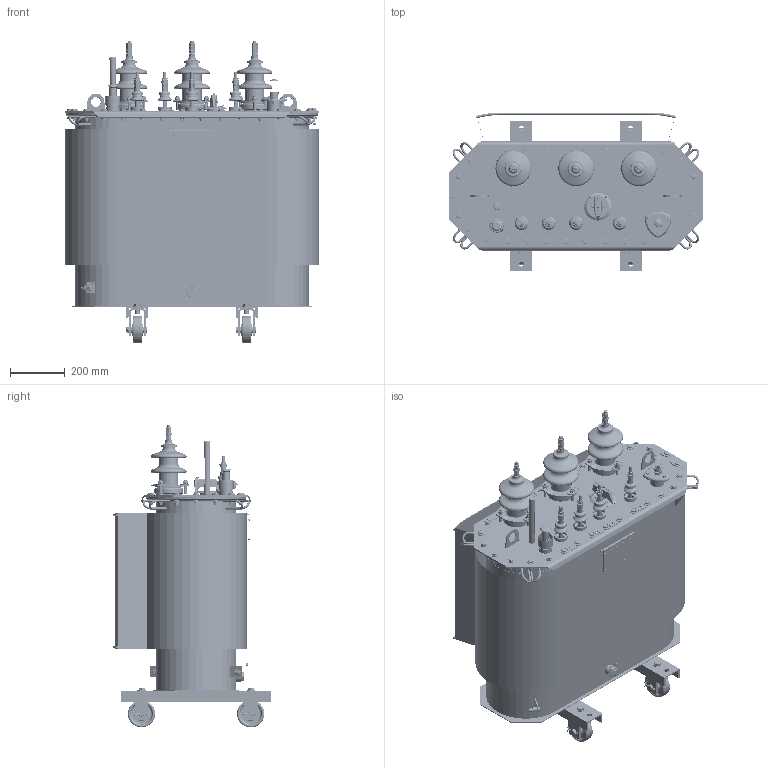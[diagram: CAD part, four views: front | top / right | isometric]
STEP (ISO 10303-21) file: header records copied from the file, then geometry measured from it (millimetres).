
FILE_DESCRIPTION(/* description */ (''),/* implementation_level */ '2;1');
FILE_NAME(/* name */ 'D:\SEARCHWORK\3Д_Модели\ТМГ33-63\Серийный\ТМГ33-63-10-УХЛ1-Х3К2.stp',/* time_stamp */ '2024-11-20T08:49:53+03:00',/* author */ ('53122'),/* organization */ (''),/* preprocessor_version */ 'ST-DEVELOPER v18.1',/* originating_system */ 'Autodesk Inventor 2021',/* authorisation */ '');
FILE_SCHEMA (('AUTOMOTIVE_DESIGN { 1 0 10303 214 3 1 1 }'));
Products named in the file (1): ВИЕЛ.672133.017_Shrinkwrap_1
Bounding box: 934 x 580 x 1109.6 mm (x, y, z)
Volume: 12826117.2 mm3; surface area: 7879923.4 mm2
Topology: 374 solids, 375 shells, 6990 faces, 16599 edges, 10504 vertices
Faces by surface type: plane 3320, cylinder 1466, bspline 1376, cone 431, torus 325, sphere 72
Full cylindrical faces by diameter (mm): 1.5 x4, 1.6 x6, 2 x4, 3 x4, 3.1 x4, 3.2 x4, 3.4 x4, 3.8 x4, 4 x8, 4.134 x1, 4.8 x15, 4.917 x2, 4.95 x1, 5 x6, 5.5 x4, 5.94 x4, 6 x32, 6.2 x5, 6.5 x4, 7.1 x2, 7.5 x1, 7.92 x3, 8 x31, 8.5 x3, 9 x3, 9.9 x30, 10 x153, 10.7 x11, 11.88 x2, 12 x138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
Entity records: 242016 total; most frequent: CARTESIAN_POINT 82110, ORIENTED_EDGE 32784, DIRECTION 28241, EDGE_CURVE 16400, VERTEX_POINT 10504, AXIS2_PLACEMENT_3D 10270, EDGE_LOOP 8192, LINE 7701
